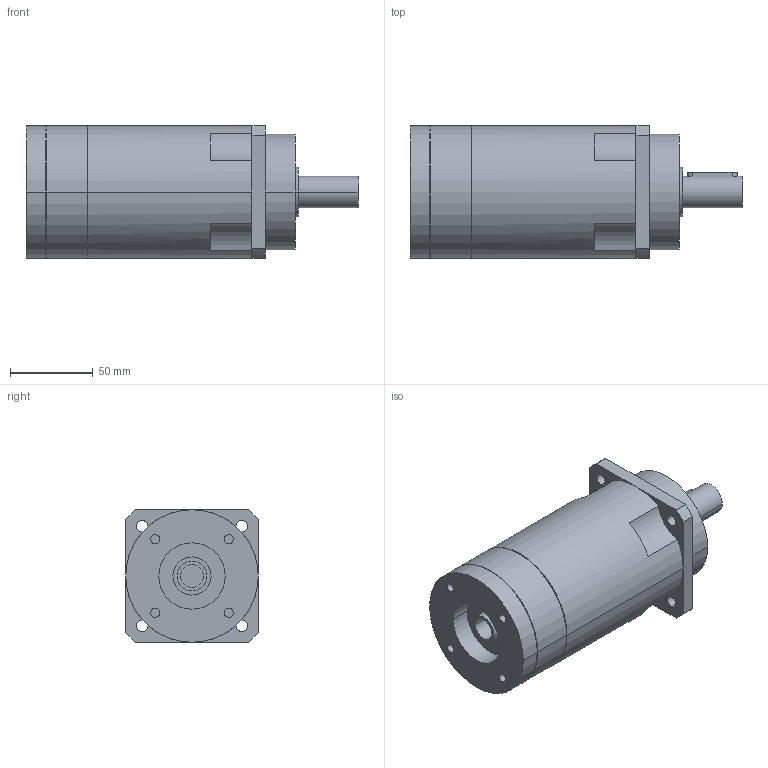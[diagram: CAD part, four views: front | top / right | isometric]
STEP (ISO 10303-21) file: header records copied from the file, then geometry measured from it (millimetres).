
FILE_DESCRIPTION(('CoCreate Modeling STEP Export'),'2;1');
FILE_NAME('GPR100_ig-48-64-80-100-120-144-180-216_19_B5_14_P17.stp','2014-08-26T11:55:11',(''),(''),'CoCreate Modeling STEP processor for AP214 (Solid Model)','CoCreate Modeling 16.00C 25-Feb-2009 (C) Parametric Technology GmbH','');
FILE_SCHEMA(('AUTOMOTIVE_DESIGN { 1 0 10303 214 1 1 1 1 }'));
Length unit declared in the file: millimetre
Products named in the file (2): GPR100_ig-48-64-80-100-120-144-180-216_19_B5_14_P17
Assembly tree (1 placements, depth 2):
  GPR100_ig-48-64-80-100-120-144-180-216_19_B5_14_P17
    GPR100_ig-48-64-80-100-120-144-180-216_19_B5_14_P17
Bounding box: 200.4 x 80 x 80 mm (x, y, z)
Volume: 787747.2 mm3; surface area: 61935.3 mm2
Topology: 1 solids, 1 shells, 96 faces, 250 edges, 172 vertices
Faces by surface type: cylinder 56, plane 34, cone 6
Entity records: 2609 total; most frequent: ORIENTED_EDGE 496, CARTESIAN_POINT 468, DIRECTION 376, EDGE_CURVE 248, VERTEX_POINT 172, AXIS2_PLACEMENT_3D 144, EDGE_LOOP 122, FACE_OUTER_BOUND 96
